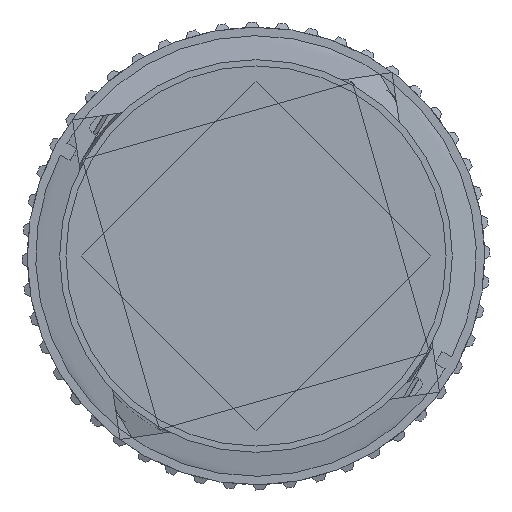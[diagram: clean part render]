
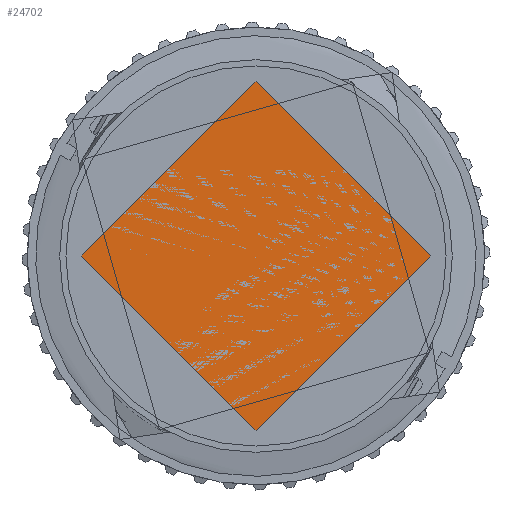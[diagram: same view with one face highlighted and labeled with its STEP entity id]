
A CAD part, left-side view. The second image highlights one B-rep face of the part: STEP entity #24702.
In plain terms, the highlighted planar face has unit normal (-1, 0, 0).
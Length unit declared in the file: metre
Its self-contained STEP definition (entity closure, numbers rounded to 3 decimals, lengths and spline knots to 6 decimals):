
#24686=CARTESIAN_POINT('',(-0.038658,-0.000726,0.051524));
#24687=DIRECTION('',(-1.,0.,0.));
#24688=DIRECTION('',(0.,0.,1.));
#24689=AXIS2_PLACEMENT_3D('',#24686,#24687,#24688);
#24690=PLANE('',#24689);
#24691=CARTESIAN_POINT('',(-0.038658,-0.000726,0.051524));
#24692=DIRECTION('',(1.,0.,0.));
#24693=DIRECTION('',(0.,0.,-1.));
#24694=AXIS2_PLACEMENT_3D('',#24691,#24692,#24693);
#24695=CIRCLE('',#24694,0.015327);
#24696=CARTESIAN_POINT('',(-0.038658,-0.000726,0.066851));
#24697=VERTEX_POINT('',#24696);
#24698=EDGE_CURVE('',#24697,#24697,#24695,.T.);
#24699=ORIENTED_EDGE('',*,*,#24698,.F.);
#24700=EDGE_LOOP('',(#24699));
#24701=FACE_BOUND('',#24700,.T.);
#24702=ADVANCED_FACE('',(#24701),#24690,.T.);
